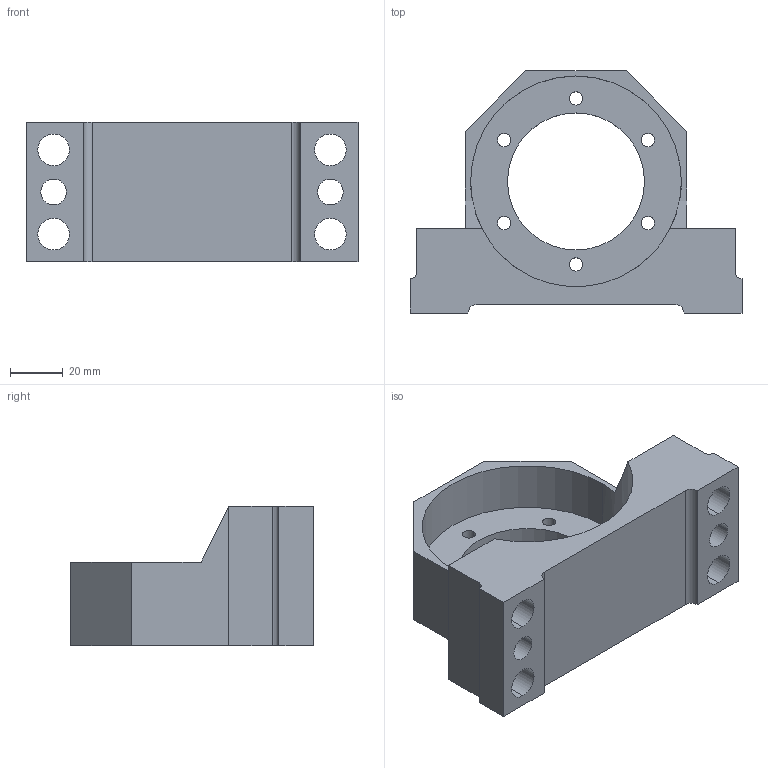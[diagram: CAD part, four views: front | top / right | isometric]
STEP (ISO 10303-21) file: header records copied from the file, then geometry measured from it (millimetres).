
FILE_DESCRIPTION (( 'STEP AP203' ), '1' );
FILE_NAME ('SFA-30.STEP', '2002-08-15T15:48:01', ( '.' ), ( '.' ), 'SwSTEP 2.0', 'SolidWorks 2001340', '' );
FILE_SCHEMA (( 'CONFIG_CONTROL_DESIGN' ));
Length unit declared in the file: millimetre
Products named in the file (1): SFA-30
Bounding box: 126 x 92 x 53 mm (x, y, z)
Volume: 171405.6 mm3; surface area: 45988.7 mm2
Topology: 1 solids, 1 shells, 52 faces, 148 edges, 98 vertices
Faces by surface type: cylinder 32, plane 20
Entity records: 1851 total; most frequent: DIRECTION 318, CARTESIAN_POINT 305, ORIENTED_EDGE 296, EDGE_CURVE 148, AXIS2_PLACEMENT_3D 119, VERTEX_POINT 98, LINE 80, VECTOR 80
